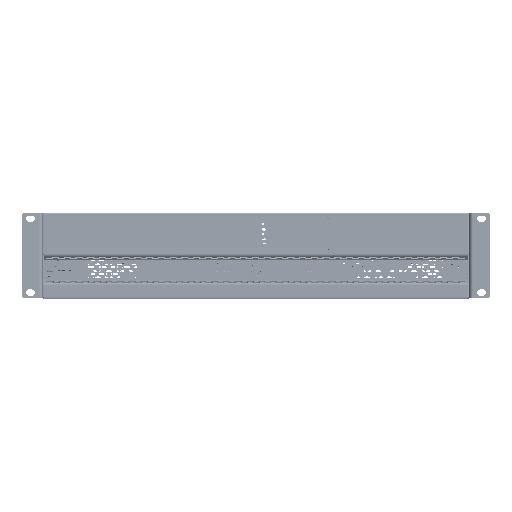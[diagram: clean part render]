
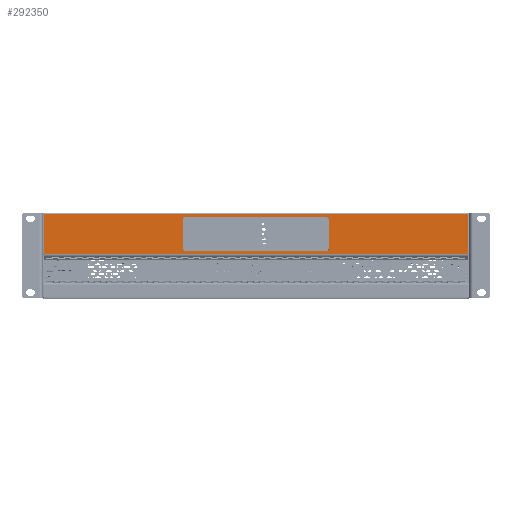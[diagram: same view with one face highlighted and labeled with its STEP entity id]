
A CAD part, top view. The second image highlights one B-rep face of the part: STEP entity #292350.
In plain terms, the highlighted planar face has unit normal (0, 0, 1).
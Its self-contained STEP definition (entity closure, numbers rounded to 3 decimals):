
#940 = CIRCLE ( 'NONE', #145786, 1. ) ;
#1738 = DIRECTION ( 'NONE',  ( -1., 0., 0. ) ) ;
#5015 = LINE ( 'NONE', #479364, #404515 ) ;
#20716 = CARTESIAN_POINT ( 'NONE',  ( 963.304, 1156.014, 1817.69 ) ) ;
#26906 = CARTESIAN_POINT ( 'NONE',  ( 1038.604, 1191.414, 1817.69 ) ) ;
#29408 = VECTOR ( 'NONE', #124596, 1000. ) ;
#42193 = VERTEX_POINT ( 'NONE', #26906 ) ;
#47371 = EDGE_CURVE ( 'NONE', #511201, #658744, #445362, .T. ) ;
#47377 = ORIENTED_EDGE ( 'NONE', *, *, #231731, .T. ) ;
#48862 = DIRECTION ( 'NONE',  ( 0., 0., -1. ) ) ;
#53784 = CARTESIAN_POINT ( 'NONE',  ( 891.304, 1159.114, 1817.69 ) ) ;
#53934 = DIRECTION ( 'NONE',  ( -1., 0., 0. ) ) ;
#54068 = CARTESIAN_POINT ( 'NONE',  ( 891.304, 1191.414, 1817.69 ) ) ;
#57036 = CARTESIAN_POINT ( 'NONE',  ( 888.004, 1191.414, 1817.69 ) ) ;
#57199 = ORIENTED_EDGE ( 'NONE', *, *, #87484, .T. ) ;
#60418 = CIRCLE ( 'NONE', #104725, 1. ) ;
#69077 = CARTESIAN_POINT ( 'NONE',  ( 1181.304, 1156.014, 1817.69 ) ) ;
#82313 = VECTOR ( 'NONE', #173861, 1000. ) ;
#85164 = ORIENTED_EDGE ( 'NONE', *, *, #557063, .T. ) ;
#87484 = EDGE_CURVE ( 'NONE', #466596, #371089, #599365, .T. ) ;
#90308 = ORIENTED_EDGE ( 'NONE', *, *, #646423, .T. ) ;
#96183 = ORIENTED_EDGE ( 'NONE', *, *, #47371, .T. ) ;
#101151 = CARTESIAN_POINT ( 'NONE',  ( 745.304, 1157.014, 1817.69 ) ) ;
#102918 = AXIS2_PLACEMENT_3D ( 'NONE', #584453, #483172, #172678 ) ;
#104725 = AXIS2_PLACEMENT_3D ( 'NONE', #438579, #532995, #428260 ) ;
#107497 = VERTEX_POINT ( 'NONE', #53784 ) ;
#124596 = DIRECTION ( 'NONE',  ( 0., -1., 0. ) ) ;
#128176 = VECTOR ( 'NONE', #332382, 1000. ) ;
#130433 = VERTEX_POINT ( 'NONE', #405180 ) ;
#130549 = VERTEX_POINT ( 'NONE', #69077 ) ;
#141921 = VECTOR ( 'NONE', #173808, 1000. ) ;
#142109 = EDGE_CURVE ( 'NONE', #371089, #42193, #147893, .T. ) ;
#143793 = VERTEX_POINT ( 'NONE', #284139 ) ;
#145571 = DIRECTION ( 'NONE',  ( 0., 0., -1. ) ) ;
#145786 = AXIS2_PLACEMENT_3D ( 'NONE', #101151, #536891, #540347 ) ;
#147893 = CIRCLE ( 'NONE', #236962, 3.3 ) ;
#148223 = EDGE_CURVE ( 'NONE', #493764, #130549, #645347, .T. ) ;
#159037 = AXIS2_PLACEMENT_3D ( 'NONE', #285774, #174380, #387057 ) ;
#166656 = CARTESIAN_POINT ( 'NONE',  ( 891.304, 1194.714, 1817.69 ) ) ;
#169010 = EDGE_CURVE ( 'NONE', #335500, #107497, #172047, .T. ) ;
#171167 = ORIENTED_EDGE ( 'NONE', *, *, #148223, .T. ) ;
#172047 = LINE ( 'NONE', #384733, #128176 ) ;
#172678 = DIRECTION ( 'NONE',  ( -1., 0., 0. ) ) ;
#173808 = DIRECTION ( 'NONE',  ( 1., 0., 0. ) ) ;
#173861 = DIRECTION ( 'NONE',  ( 0., -1., 0. ) ) ;
#174380 = DIRECTION ( 'NONE',  ( 0., 0., -1. ) ) ;
#179721 = VERTEX_POINT ( 'NONE', #648062 ) ;
#180486 = ORIENTED_EDGE ( 'NONE', *, *, #277422, .T. ) ;
#185253 = AXIS2_PLACEMENT_3D ( 'NONE', #54068, #636568, #1738 ) ;
#194945 = CIRCLE ( 'NONE', #462305, 1. ) ;
#194990 = AXIS2_PLACEMENT_3D ( 'NONE', #571052, #145571, #686108 ) ;
#204941 = ORIENTED_EDGE ( 'NONE', *, *, #684441, .T. ) ;
#207871 = CARTESIAN_POINT ( 'NONE',  ( 888.004, 1162.414, 1817.69 ) ) ;
#211611 = FACE_OUTER_BOUND ( 'NONE', #685600, .T. ) ;
#211752 = VECTOR ( 'NONE', #596413, 1000. ) ;
#220809 = LINE ( 'NONE', #57036, #639864 ) ;
#227645 = CARTESIAN_POINT ( 'NONE',  ( 1182.304, 1196.814, 1817.69 ) ) ;
#231731 = EDGE_CURVE ( 'NONE', #42193, #643693, #438884, .T. ) ;
#233596 = ORIENTED_EDGE ( 'NONE', *, *, #142109, .T. ) ;
#234938 = EDGE_CURVE ( 'NONE', #179721, #466596, #619990, .T. ) ;
#236962 = AXIS2_PLACEMENT_3D ( 'NONE', #261598, #533654, #687280 ) ;
#239871 = CARTESIAN_POINT ( 'NONE',  ( 1038.604, 1176.914, 1817.69 ) ) ;
#260481 = DIRECTION ( 'NONE',  ( 0., 0., 1. ) ) ;
#261474 = DIRECTION ( 'NONE',  ( -1., 0., 0. ) ) ;
#261598 = CARTESIAN_POINT ( 'NONE',  ( 1035.304, 1191.414, 1817.69 ) ) ;
#264928 = CARTESIAN_POINT ( 'NONE',  ( 891.304, 1162.414, 1817.69 ) ) ;
#267982 = CARTESIAN_POINT ( 'NONE',  ( 744.304, 1157.014, 1817.69 ) ) ;
#272891 = EDGE_CURVE ( 'NONE', #345935, #143793, #60418, .T. ) ;
#277422 = EDGE_CURVE ( 'NONE', #107497, #669582, #451013, .T. ) ;
#281297 = ORIENTED_EDGE ( 'NONE', *, *, #169010, .T. ) ;
#284139 = CARTESIAN_POINT ( 'NONE',  ( 1181.304, 1197.814, 1817.69 ) ) ;
#285774 = CARTESIAN_POINT ( 'NONE',  ( 1035.304, 1162.414, 1817.69 ) ) ;
#292350 = ADVANCED_FACE ( 'NONE', ( #211611, #309350 ), #420899, .F. ) ;
#298185 = ORIENTED_EDGE ( 'NONE', *, *, #272891, .T. ) ;
#309350 = FACE_BOUND ( 'NONE', #536709, .T. ) ;
#315405 = CARTESIAN_POINT ( 'NONE',  ( 1182.304, 1176.914, 1817.69 ) ) ;
#331472 = CARTESIAN_POINT ( 'NONE',  ( 1038.604, 1162.414, 1817.69 ) ) ;
#332382 = DIRECTION ( 'NONE',  ( -1., 0., 0. ) ) ;
#335500 = VERTEX_POINT ( 'NONE', #644540 ) ;
#340646 = EDGE_CURVE ( 'NONE', #419130, #345935, #410577, .T. ) ;
#345935 = VERTEX_POINT ( 'NONE', #227645 ) ;
#361915 = CARTESIAN_POINT ( 'NONE',  ( 1035.304, 1194.714, 1817.69 ) ) ;
#369588 = ORIENTED_EDGE ( 'NONE', *, *, #234938, .T. ) ;
#371089 = VERTEX_POINT ( 'NONE', #361915 ) ;
#373335 = AXIS2_PLACEMENT_3D ( 'NONE', #264928, #48862, #261474 ) ;
#381697 = ORIENTED_EDGE ( 'NONE', *, *, #633683, .T. ) ;
#384733 = CARTESIAN_POINT ( 'NONE',  ( 963.304, 1159.114, 1817.69 ) ) ;
#387057 = DIRECTION ( 'NONE',  ( -1., 0., 0. ) ) ;
#404515 = VECTOR ( 'NONE', #53934, 1000. ) ;
#405180 = CARTESIAN_POINT ( 'NONE',  ( 745.304, 1197.814, 1817.69 ) ) ;
#410577 = LINE ( 'NONE', #315405, #544731 ) ;
#414420 = CIRCLE ( 'NONE', #102918, 1. ) ;
#419130 = VERTEX_POINT ( 'NONE', #548786 ) ;
#420899 = PLANE ( 'NONE',  #194990 ) ;
#425019 = CARTESIAN_POINT ( 'NONE',  ( 745.304, 1156.014, 1817.69 ) ) ;
#425723 = EDGE_CURVE ( 'NONE', #669582, #179721, #220809, .T. ) ;
#428260 = DIRECTION ( 'NONE',  ( -1., 0., 0. ) ) ;
#438579 = CARTESIAN_POINT ( 'NONE',  ( 1181.304, 1196.814, 1817.69 ) ) ;
#438884 = LINE ( 'NONE', #239871, #82313 ) ;
#441955 = CARTESIAN_POINT ( 'NONE',  ( 744.304, 1176.914, 1817.69 ) ) ;
#445362 = LINE ( 'NONE', #441955, #29408 ) ;
#451013 = CIRCLE ( 'NONE', #373335, 3.3 ) ;
#462305 = AXIS2_PLACEMENT_3D ( 'NONE', #581419, #260481, #473242 ) ;
#466596 = VERTEX_POINT ( 'NONE', #166656 ) ;
#473242 = DIRECTION ( 'NONE',  ( -1., 0., 0. ) ) ;
#478261 = ORIENTED_EDGE ( 'NONE', *, *, #502821, .T. ) ;
#479364 = CARTESIAN_POINT ( 'NONE',  ( 963.304, 1197.814, 1817.69 ) ) ;
#483172 = DIRECTION ( 'NONE',  ( 0., 0., 1. ) ) ;
#488459 = ORIENTED_EDGE ( 'NONE', *, *, #425723, .T. ) ;
#493034 = CIRCLE ( 'NONE', #159037, 3.3 ) ;
#493764 = VERTEX_POINT ( 'NONE', #425019 ) ;
#494566 = CARTESIAN_POINT ( 'NONE',  ( 1035.304, 1194.714, 1817.69 ) ) ;
#502821 = EDGE_CURVE ( 'NONE', #643693, #335500, #493034, .T. ) ;
#503633 = ORIENTED_EDGE ( 'NONE', *, *, #340646, .T. ) ;
#508419 = DIRECTION ( 'NONE',  ( 0., 1., 0. ) ) ;
#511201 = VERTEX_POINT ( 'NONE', #577305 ) ;
#532995 = DIRECTION ( 'NONE',  ( 0., 0., 1. ) ) ;
#533654 = DIRECTION ( 'NONE',  ( 0., 0., -1. ) ) ;
#536709 = EDGE_LOOP ( 'NONE', ( #488459, #369588, #57199, #233596, #47377, #478261, #281297, #180486 ) ) ;
#536891 = DIRECTION ( 'NONE',  ( 0., 0., 1. ) ) ;
#540347 = DIRECTION ( 'NONE',  ( -1., 0., 0. ) ) ;
#544731 = VECTOR ( 'NONE', #508419, 1000. ) ;
#548786 = CARTESIAN_POINT ( 'NONE',  ( 1182.304, 1157.014, 1817.69 ) ) ;
#557063 = EDGE_CURVE ( 'NONE', #143793, #130433, #5015, .T. ) ;
#571052 = CARTESIAN_POINT ( 'NONE',  ( 963.304, 1176.914, 1817.69 ) ) ;
#577305 = CARTESIAN_POINT ( 'NONE',  ( 744.304, 1196.814, 1817.69 ) ) ;
#581419 = CARTESIAN_POINT ( 'NONE',  ( 1181.304, 1157.014, 1817.69 ) ) ;
#584453 = CARTESIAN_POINT ( 'NONE',  ( 745.304, 1196.814, 1817.69 ) ) ;
#596413 = DIRECTION ( 'NONE',  ( 1., 0., 0. ) ) ;
#599365 = LINE ( 'NONE', #494566, #141921 ) ;
#600942 = DIRECTION ( 'NONE',  ( 0., 1., 0. ) ) ;
#619990 = CIRCLE ( 'NONE', #185253, 3.3 ) ;
#633683 = EDGE_CURVE ( 'NONE', #130433, #511201, #414420, .T. ) ;
#636568 = DIRECTION ( 'NONE',  ( 0., 0., -1. ) ) ;
#639864 = VECTOR ( 'NONE', #600942, 1000. ) ;
#643693 = VERTEX_POINT ( 'NONE', #331472 ) ;
#644540 = CARTESIAN_POINT ( 'NONE',  ( 1035.304, 1159.114, 1817.69 ) ) ;
#645347 = LINE ( 'NONE', #20716, #211752 ) ;
#646423 = EDGE_CURVE ( 'NONE', #658744, #493764, #940, .T. ) ;
#648062 = CARTESIAN_POINT ( 'NONE',  ( 888.004, 1191.414, 1817.69 ) ) ;
#658744 = VERTEX_POINT ( 'NONE', #267982 ) ;
#669582 = VERTEX_POINT ( 'NONE', #207871 ) ;
#684441 = EDGE_CURVE ( 'NONE', #130549, #419130, #194945, .T. ) ;
#685600 = EDGE_LOOP ( 'NONE', ( #85164, #381697, #96183, #90308, #171167, #204941, #503633, #298185 ) ) ;
#686108 = DIRECTION ( 'NONE',  ( -1., 0., 0. ) ) ;
#687280 = DIRECTION ( 'NONE',  ( -1., 0., 0. ) ) ;
